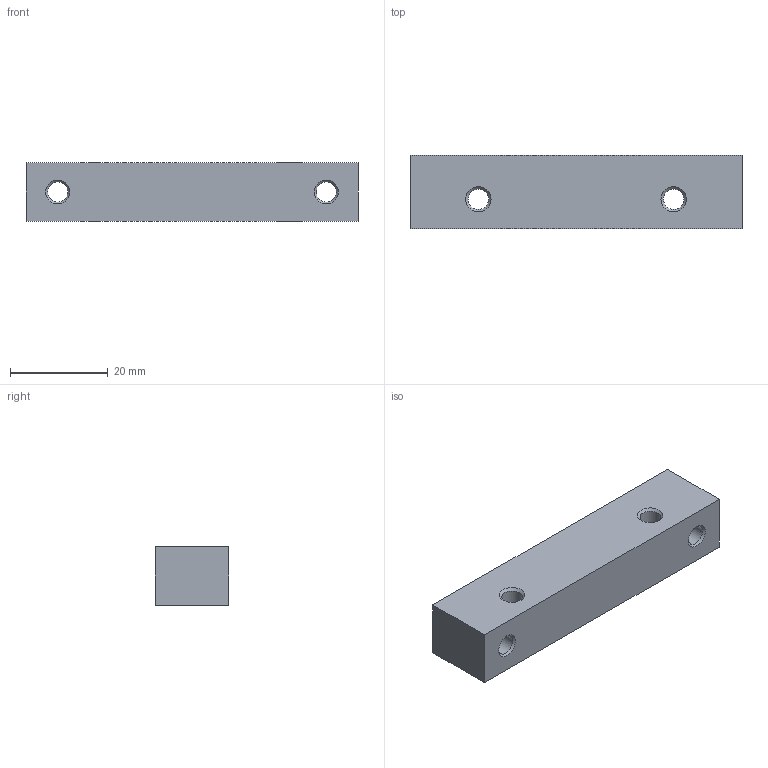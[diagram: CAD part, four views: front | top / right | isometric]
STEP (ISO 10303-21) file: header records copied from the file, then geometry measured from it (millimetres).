
FILE_DESCRIPTION(/* description */ (''),/* implementation_level */ '2;1');
FILE_NAME(/* name */ '2020TOMO-CRIMP.13.stp',/* time_stamp */ '2021-01-20T14:52:38+01:00',/* author */ (''),/* organization */ (''),/* preprocessor_version */ 'ST-DEVELOPER v16.7',/* originating_system */ 'SIEMENS PLM Software NX 1892',/* authorisation */ '');
FILE_SCHEMA (('AUTOMOTIVE_DESIGN { 1 0 10303 214 3 1 1 1 }'));
Length unit declared in the file: millimetre
Products named in the file (1): turc131041948itw
Bounding box: 68 x 15 x 12 mm (x, y, z)
Volume: 11499.9 mm3; surface area: 4601.5 mm2
Topology: 1 solids, 1 shells, 18 faces, 42 edges, 26 vertices
Faces by surface type: cone 8, plane 6, cylinder 4
Full cylindrical faces by diameter (mm): 4.1 x2, 4.2 x2
Entity records: 484 total; most frequent: DIRECTION 82, CARTESIAN_POINT 71, ORIENTED_EDGE 56, EDGE_LOOP 38, FACE_BOUND 36, AXIS2_PLACEMENT_3D 35, EDGE_CURVE 28, VERTEX_POINT 24
